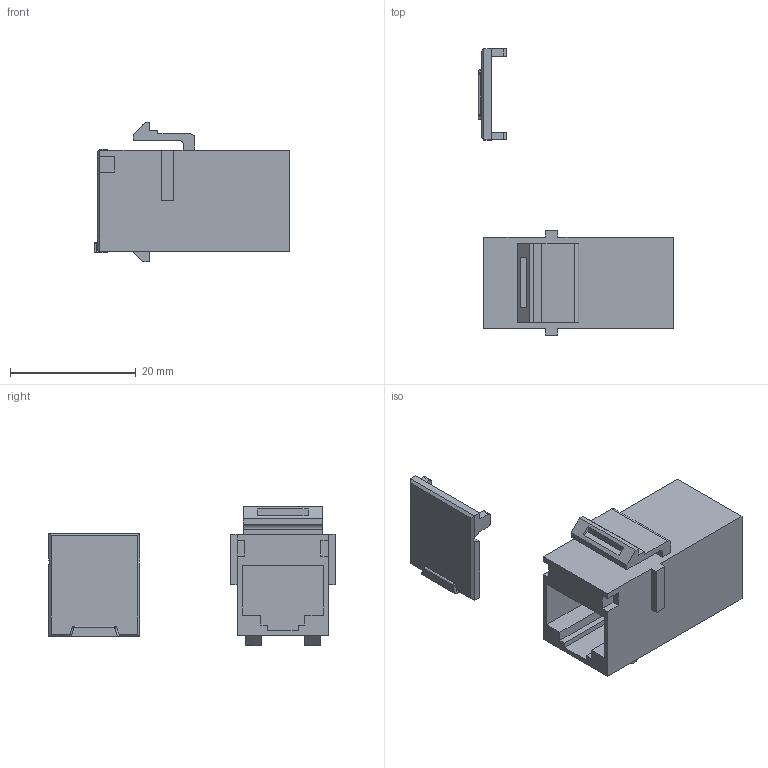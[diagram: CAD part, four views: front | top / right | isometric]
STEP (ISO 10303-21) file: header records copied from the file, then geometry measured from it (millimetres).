
FILE_DESCRIPTION( ('This file contains a STEP AP42 implementation' ,'as created by ZW3D STEP Interface translator.') ,'2;1' );
FILE_NAME( 'TB-014_SY-350C8_SD.stp' ,'26 330.134526', (''), ('ZWCAD Software Co.'), 'Version 1.0', 'ZW3D to STEP translator', '' );
FILE_SCHEMA(('AUTOMOTIVE_DESIGN'));
Length unit declared in the file: millimetre
Products named in the file (2): 0; TB-014_SY-350C8_SD
Bounding box: 31.15 x 45.63 x 22.15 mm (x, y, z)
Volume: 5331 mm3; surface area: 4284.2 mm2
Topology: 2 solids, 2 shells, 118 faces, 310 edges, 202 vertices
Faces by surface type: bspline 118
Entity records: 4919 total; most frequent: CARTESIAN_POINT 2849, ORIENTED_EDGE 620, B_SPLINE_CURVE_WITH_KNOTS 310, EDGE_CURVE 310, VERTEX_POINT 202, EDGE_LOOP 124, FACE_OUTER_BOUND 118, ADVANCED_FACE 118
